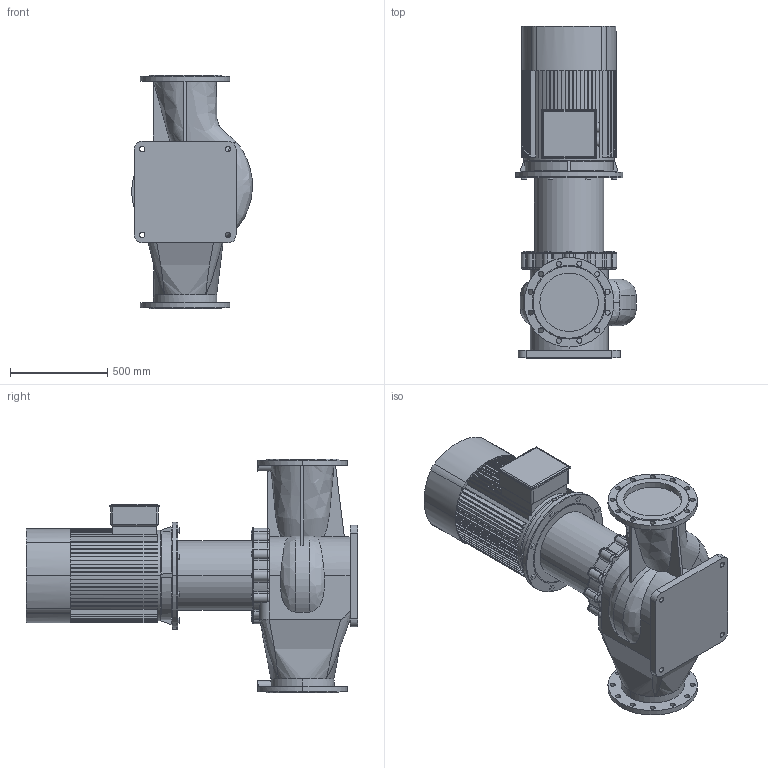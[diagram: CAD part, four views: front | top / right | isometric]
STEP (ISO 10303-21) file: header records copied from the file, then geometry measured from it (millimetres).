
FILE_DESCRIPTION (( 'STEP AP203' ), '1' );
FILE_NAME ('TD300-15_4.STEP', '2022-05-02T18:18:15', ( '' ), ( '' ), 'SwSTEP 2.0', 'SolidWorks 2019', '' );
FILE_SCHEMA (( 'CONFIG_CONTROL_DESIGN' ));
Length unit declared in the file: millimetre
Products named in the file (4): Fon_300_TD300-15_4; Pr_ch 300_TD300-15_4; TD300-15_4; ED_B5_YE2-250M-4 (55)
Assembly tree (3 placements, depth 2):
  TD300-15_4
    Pr_ch 300_TD300-15_4
    Fon_300_TD300-15_4
    ED_B5_YE2-250M-4 (55)
Bounding box: 621.1 x 1705 x 1200 mm (x, y, z)
Volume: 330352068.4 mm3; surface area: 7067502.3 mm2
Topology: 5 solids, 5 shells, 880 faces, 2427 edges, 1596 vertices
Faces by surface type: plane 552, cylinder 239, torus 50, bspline 24, cone 15
Entity records: 36589 total; most frequent: CARTESIAN_POINT 13085, DIRECTION 4896, ORIENTED_EDGE 4846, EDGE_CURVE 2423, AXIS2_PLACEMENT_3D 1724, VERTEX_POINT 1596, LINE 1448, VECTOR 1448
